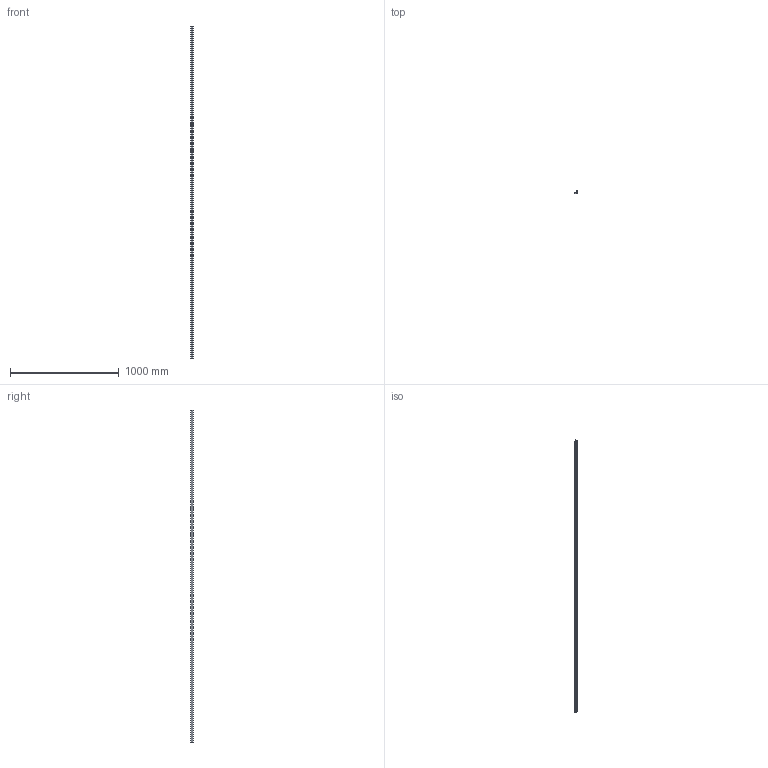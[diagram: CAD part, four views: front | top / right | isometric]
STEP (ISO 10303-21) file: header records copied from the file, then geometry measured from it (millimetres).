
FILE_DESCRIPTION(/* description */ (''),/* implementation_level */ '2;1');
FILE_NAME(/* name */ 'M24It.stp',/* time_stamp */ '2025-02-27T16:21:46-05:00',/* author */ ('samuel.gauthier'),/* organization */ (''),/* preprocessor_version */ 'ST-DEVELOPER v20',/* originating_system */ 'Autodesk Inventor 2025',/* authorisation */ '');
FILE_SCHEMA (('AUTOMOTIVE_DESIGN { 1 0 10303 214 3 1 1 }'));
Length unit declared in the file: inch
Products named in the file (1): Moulure de Renforcement
Bounding box: 25.4 x 22.27 x 3048 mm (x, y, z)
Volume: 172082.4 mm3; surface area: 722944.3 mm2
Topology: 1 solids, 1 shells, 26 faces, 72 edges, 48 vertices
Faces by surface type: plane 16, cylinder 10
Entity records: 881 total; most frequent: CARTESIAN_POINT 147, DIRECTION 146, ORIENTED_EDGE 144, EDGE_CURVE 72, LINE 52, VECTOR 52, VERTEX_POINT 48, AXIS2_PLACEMENT_3D 47
